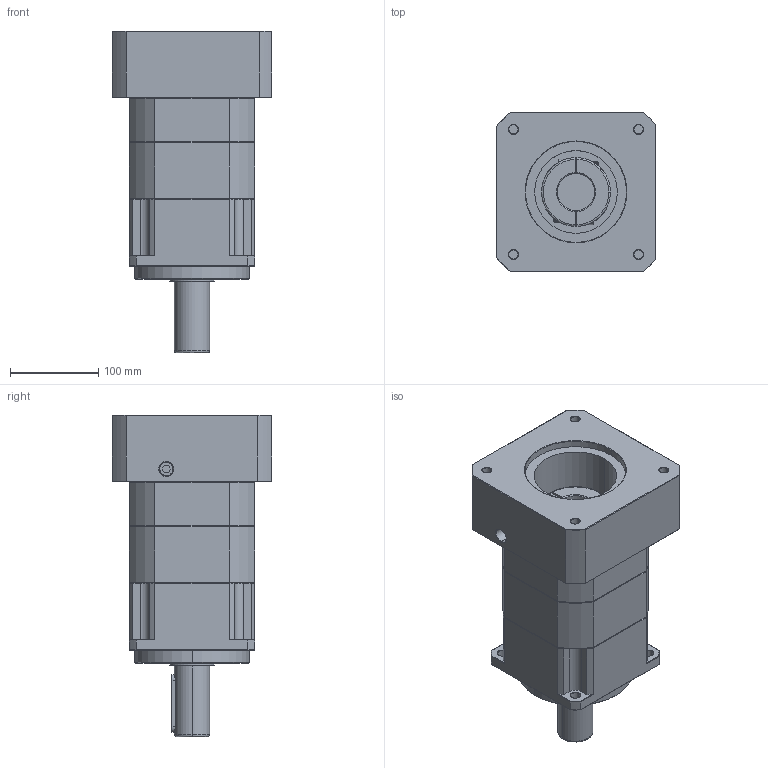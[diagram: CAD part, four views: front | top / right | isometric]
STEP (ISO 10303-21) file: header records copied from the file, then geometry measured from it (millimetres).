
FILE_DESCRIPTION (( 'STEP AP214' ), '1' );
FILE_NAME ('ZPB142-L2-P1-S2-42-114.3-200-M12.step', '2024-07-05T00:19:09', ( 'Windows 蚚誧' ), ( 'Organization' ), 'SwSTEP 2.0', 'SolidWorks 2016', '' );
FILE_SCHEMA (( 'AUTOMOTIVE_DESIGN' ));
Length unit declared in the file: millimetre
Products named in the file (1): ZPB142-L2-P1-S2-42-114.3-200-M12
Bounding box: 180 x 180 x 363.5 mm (x, y, z)
Surface area: 303048.7 mm2 (no closed solid volume)
Topology: 0 solids, 37 shells, 1793 faces, 4772 edges, 3054 vertices
Faces by surface type: plane 924, bspline 383, cone 271, cylinder 215
Full cylindrical faces by diameter (mm): 14 x1
Entity records: 100736 total; most frequent: CARTESIAN_POINT 50646, ORIENTED_EDGE 9519, DIRECTION 7320, EDGE_CURVE 4771, LINE 3158, VECTOR 3158, VERTEX_POINT 3054, AXIS2_PLACEMENT_3D 2081
